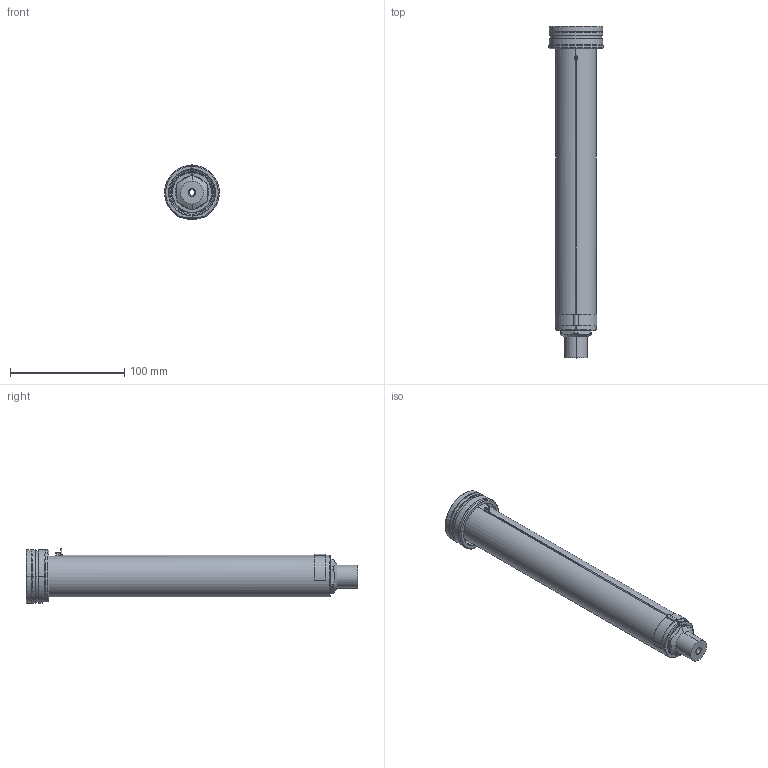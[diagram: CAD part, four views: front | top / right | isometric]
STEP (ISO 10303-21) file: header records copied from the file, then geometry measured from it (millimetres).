
FILE_DESCRIPTION((''),'2;1');
FILE_NAME('EO16_VG-FBE_STD_260_SW','2024-02-19T14:11:16',('sundharh'),(''),'CREO PARAMETRIC BY PTC INC, 2023154','CREO PARAMETRIC BY PTC INC, 2023154','');
FILE_SCHEMA(('CONFIG_CONTROL_DESIGN'));
Length unit declared in the file: millimetre
Products named in the file (1): EO16_VG-FBE_STD_260_SW
Bounding box: 47.97 x 290 x 48 mm (x, y, z)
Volume: 229650.8 mm3; surface area: 55148.2 mm2
Topology: 1 solids, 1 shells, 199 faces, 478 edges, 288 vertices
Faces by surface type: cylinder 72, plane 47, cone 41, torus 24, bspline 13, sphere 2
Entity records: 6756 total; most frequent: CARTESIAN_POINT 2034, DIRECTION 1064, ORIENTED_EDGE 944, EDGE_CURVE 472, AXIS2_PLACEMENT_3D 446, VERTEX_POINT 288, CIRCLE 260, EDGE_LOOP 216
